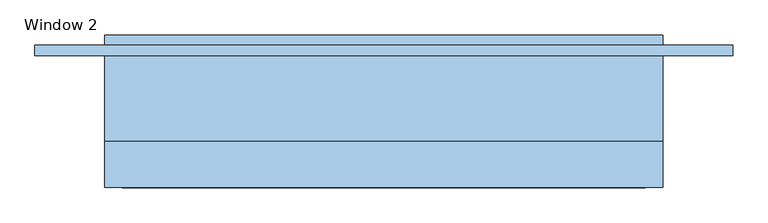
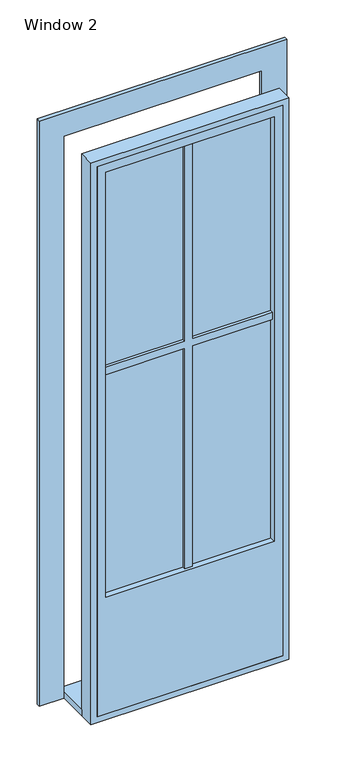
"""IFC4 building model written with IfcOpenShell, lengths in millimetres: window geometry, Window 2 : 800/2400."""

from ifc_helpers import new_model, si_unit, frame, origin, origin_with_axes, place, context, project, spatial, polyline, outline, extrude, source, transform, mapped, element, save


def window_2_4fa60929(model_context):
    return source(origin(), model_context, "Body", "SweptSolid", [
        extrude(outline(polyline([(400.0, 26.9623738), (-400.0, 26.9623738), (-400.0, 180.0), (400.0, 180.0), (400.0, 26.9623738)])), origin_with_axes(), (0.0, 0.0, 1.0), 25.0),
        extrude(outline(polyline([(2375.0, -375.0), (25.0, -375.0), (25.0, 375.0), (2375.0, 375.0), (2375.0, -375.0)]), holes=[polyline([(2340.0, -340.0), (2340.0, 340.0), (525.0, 340.0), (525.0, -340.0), (2340.0, -340.0)])]), frame((0.0, -39.0188131, 0.0), z_axis=(0.0, 1.0, 0.0), x_axis=(0.0, 0.0, 1.0)), (0.0, 0.0, 1.0), 50.5),
        extrude(outline(polyline([(0.0, -400.0), (0.0, 400.0), (2400.0, 400.0), (2400.0, -400.0), (0.0, -400.0)]), holes=[polyline([(25.0, -375.0), (2375.0, -375.0), (2375.0, 375.0), (25.0, 375.0), (25.0, -375.0)])]), frame((0.0, -39.0188131, 0.0), z_axis=(0.0, 1.0, 0.0), x_axis=(0.0, 0.0, 1.0)), (0.0, 0.0, 1.0), 65.9811869),
        extrude(outline(polyline([(2400.0, -400.0), (2400.0, 400.0), (0.0, 400.0), (0.0, 500.0), (2500.0, 500.0), (2500.0, -500.0), (0.0, -500.0), (0.0, -400.0), (2400.0, -400.0)])), frame((0.0, 150.0, 0.0), z_axis=(0.0, 1.0, 0.0), x_axis=(0.0, 0.0, 1.0)), (0.0, 0.0, 1.0), 15.0),
        extrude(outline(polyline([(1497.5, 340.0), (1497.5, 15.0), (2340.0, 15.0), (2340.0, -15.0), (1497.5, -15.0), (1497.5, -340.0), (1467.5, -340.0), (1467.5, -15.0), (525.0, -15.0), (525.0, 15.0), (1467.5, 15.0), (1467.5, 340.0), (1497.5, 340.0)])), frame((0.0, -28.5188131, 0.0), z_axis=(0.0, 1.0, 0.0), x_axis=(0.0, 0.0, 1.0)), (0.0, 0.0, 1.0), 20.0),
        extrude(outline(polyline([(340.0, -15.5188131), (-340.0, -15.5188131), (-340.0, -13.5188131), (340.0, -13.5188131), (340.0, -15.5188131)])), frame((0.0, 0.0, 525.0), z_axis=(0.0, 0.0, 1.0), x_axis=(1.0, 0.0, 0.0)), (0.0, 0.0, 1.0), 1815.0),
    ])


if __name__ == "__main__":
    model = new_model("IFC4")
    model_context = context("Model", 3, world=origin())
    ifc_project = project(units=[si_unit("LENGTHUNIT", "METRE", prefix="MILLI")], contexts=[model_context])
    site = spatial("IfcSite", under=ifc_project)
    building = spatial("IfcBuilding", under=site)
    placement = place(None, origin())
    window_2_shape = window_2_4fa60929(model_context)
    element("IfcWindow", 1, ObjectType="Window 2 : 800/2400", at=placement, inside=building, context=model_context, shape_type="MappedRepresentation", body=[
        mapped(window_2_shape, transform((0.0, 0.0, 0.0), x_axis=(1.0, 0.0, 0.0), y_axis=(0.0, 1.0, 0.0), z_axis=(0.0, 0.0, 1.0))),
    ])
    save(model, "model.ifc")
